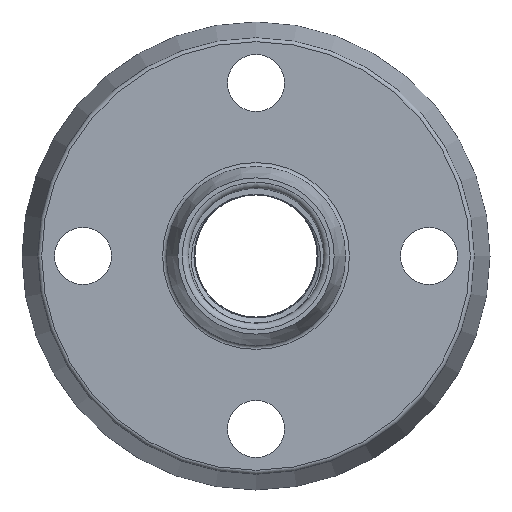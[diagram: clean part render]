
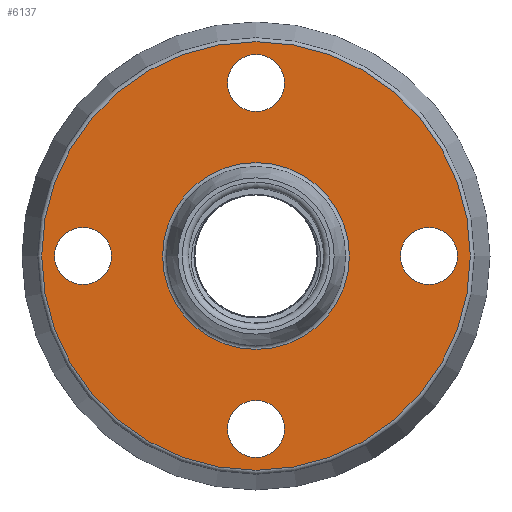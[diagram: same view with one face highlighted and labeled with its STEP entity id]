
A CAD part, left-side view. The second image highlights one B-rep face of the part: STEP entity #6137.
In plain terms, the highlighted planar face has unit normal (-1, 0, 0).
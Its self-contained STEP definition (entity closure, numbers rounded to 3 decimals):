
#74=FACE_BOUND('',#1640,.T.);
#75=FACE_BOUND('',#1641,.T.);
#76=FACE_BOUND('',#1642,.T.);
#77=FACE_BOUND('',#1643,.T.);
#78=FACE_BOUND('',#1644,.T.);
#137=PLANE('',#7239);
#1166=FACE_OUTER_BOUND('',#1639,.T.);
#1639=EDGE_LOOP('',(#5464));
#1640=EDGE_LOOP('',(#5465));
#1641=EDGE_LOOP('',(#5466));
#1642=EDGE_LOOP('',(#5467));
#1643=EDGE_LOOP('',(#5468));
#1644=EDGE_LOOP('',(#5469));
#2349=CIRCLE('',#7223,7.);
#2351=CIRCLE('',#7227,7.);
#2353=CIRCLE('',#7231,7.);
#2355=CIRCLE('',#7235,7.);
#2356=CIRCLE('',#7237,22.949);
#2358=CIRCLE('',#7240,52.653);
#2838=VERTEX_POINT('',#11419);
#2840=VERTEX_POINT('',#11425);
#2842=VERTEX_POINT('',#11431);
#2844=VERTEX_POINT('',#11437);
#2845=VERTEX_POINT('',#11440);
#2847=VERTEX_POINT('',#11445);
#3723=EDGE_CURVE('',#2838,#2838,#2349,.T.);
#3725=EDGE_CURVE('',#2840,#2840,#2351,.T.);
#3727=EDGE_CURVE('',#2842,#2842,#2353,.T.);
#3729=EDGE_CURVE('',#2844,#2844,#2355,.T.);
#3730=EDGE_CURVE('',#2845,#2845,#2356,.T.);
#3732=EDGE_CURVE('',#2847,#2847,#2358,.T.);
#5464=ORIENTED_EDGE('',*,*,#3732,.F.);
#5465=ORIENTED_EDGE('',*,*,#3725,.T.);
#5466=ORIENTED_EDGE('',*,*,#3727,.T.);
#5467=ORIENTED_EDGE('',*,*,#3729,.T.);
#5468=ORIENTED_EDGE('',*,*,#3723,.T.);
#5469=ORIENTED_EDGE('',*,*,#3730,.F.);
#6137=ADVANCED_FACE('',(#1166,#74,#75,#76,#77,#78),#137,.T.);
#7223=AXIS2_PLACEMENT_3D('',#11420,#9585,#9586);
#7227=AXIS2_PLACEMENT_3D('',#11426,#9593,#9594);
#7231=AXIS2_PLACEMENT_3D('',#11432,#9601,#9602);
#7235=AXIS2_PLACEMENT_3D('',#11438,#9609,#9610);
#7237=AXIS2_PLACEMENT_3D('',#11441,#9613,#9614);
#7239=AXIS2_PLACEMENT_3D('',#11444,#9617,#9618);
#7240=AXIS2_PLACEMENT_3D('',#11446,#9619,#9620);
#9585=DIRECTION('center_axis',(1.,0.,0.));
#9586=DIRECTION('ref_axis',(0.,0.,1.));
#9593=DIRECTION('center_axis',(1.,0.,0.));
#9594=DIRECTION('ref_axis',(0.,1.,0.));
#9601=DIRECTION('center_axis',(1.,0.,0.));
#9602=DIRECTION('ref_axis',(0.,0.,-1.));
#9609=DIRECTION('center_axis',(1.,0.,0.));
#9610=DIRECTION('ref_axis',(0.,-1.,0.));
#9613=DIRECTION('center_axis',(-1.,0.,0.));
#9614=DIRECTION('ref_axis',(0.,1.,0.));
#9617=DIRECTION('center_axis',(-1.,0.,0.));
#9618=DIRECTION('ref_axis',(0.,0.,1.));
#9619=DIRECTION('center_axis',(1.,0.,0.));
#9620=DIRECTION('ref_axis',(0.,1.,0.));
#11419=CARTESIAN_POINT('',(10.25,42.5,7.));
#11420=CARTESIAN_POINT('Origin',(10.25,42.5,0.));
#11425=CARTESIAN_POINT('',(10.25,7.,-42.5));
#11426=CARTESIAN_POINT('Origin',(10.25,0.,-42.5));
#11431=CARTESIAN_POINT('',(10.25,-42.5,-7.));
#11432=CARTESIAN_POINT('Origin',(10.25,-42.5,0.));
#11437=CARTESIAN_POINT('',(10.25,-7.,42.5));
#11438=CARTESIAN_POINT('Origin',(10.25,0.,42.5));
#11440=CARTESIAN_POINT('',(10.25,-22.949,0.));
#11441=CARTESIAN_POINT('Origin',(10.25,0.,0.));
#11444=CARTESIAN_POINT('Origin',(10.25,-22.2,0.));
#11445=CARTESIAN_POINT('',(10.25,-52.653,0.));
#11446=CARTESIAN_POINT('Origin',(10.25,0.,0.));
